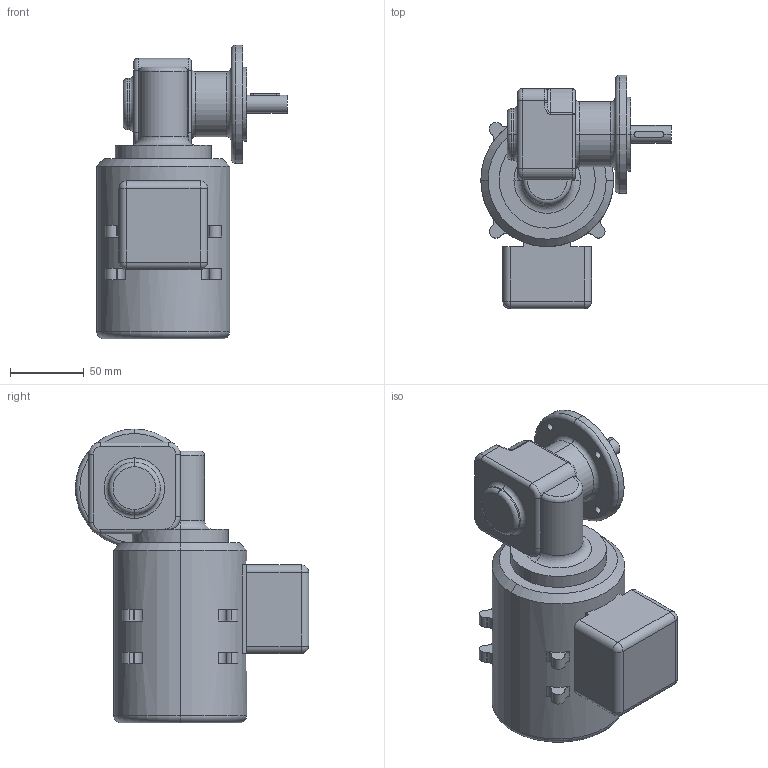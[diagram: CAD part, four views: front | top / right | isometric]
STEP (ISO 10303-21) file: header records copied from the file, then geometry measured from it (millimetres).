
FILE_DESCRIPTION (( 'STEP AP203' ), '1' );
FILE_NAME ('SN5FR-45W-C.STEP', '2007-09-13T06:18:29', ( ' ' ), ( ' ' ), 'SwSTEP 2.0', 'SolidWorks 2006233', '' );
FILE_SCHEMA (( 'CONFIG_CONTROL_DESIGN' ));
Length unit declared in the file: millimetre
Products named in the file (3): SN5FR_Standard; SRF45Wof_Standard; SN5FR-45W-C
Assembly tree (2 placements, depth 2):
  SN5FR-45W-C
    SRF45Wof_Standard
    SN5FR_Standard
Bounding box: 129 x 158 x 199 mm (x, y, z)
Volume: 1215752.4 mm3; surface area: 97601 mm2
Topology: 2 solids, 2 shells, 198 faces, 478 edges, 292 vertices
Faces by surface type: cylinder 91, plane 63, torus 30, sphere 8, bspline 4, cone 2
Entity records: 6576 total; most frequent: CARTESIAN_POINT 1527, DIRECTION 1093, ORIENTED_EDGE 944, EDGE_CURVE 472, AXIS2_PLACEMENT_3D 446, VERTEX_POINT 292, CIRCLE 247, EDGE_LOOP 220
